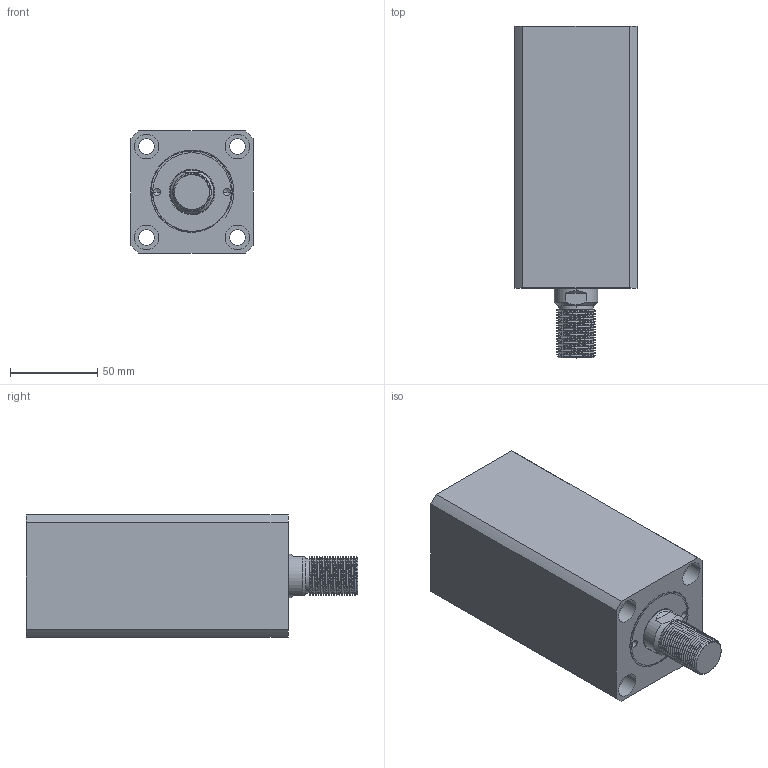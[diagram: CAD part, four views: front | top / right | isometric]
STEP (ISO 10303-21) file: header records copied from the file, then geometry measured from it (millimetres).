
FILE_DESCRIPTION (( 'STEP AP214' ), '1' );
FILE_NAME ('chtb-sd40x95w_asm.STEP', '2018-06-08T05:58:13', ( 'Windows' ), ( 'Microsoft' ), 'SwSTEP 2.0', 'SolidWorks 2015', '' );
FILE_SCHEMA (( 'AUTOMOTIVE_DESIGN' ));
Length unit declared in the file: millimetre
Products named in the file (4): CHTB-SD40QG; CHTB-SD40X95NBT; CHTB-SD40X95WHSG; chtb-sd40x95w_asm
Assembly tree (3 placements, depth 2):
  chtb-sd40x95w_asm
    CHTB-SD40X95WHSG
    CHTB-SD40X95NBT
    CHTB-SD40QG
Bounding box: 70 x 190 x 70 mm (x, y, z)
Volume: 619954.3 mm3; surface area: 118044.9 mm2
Topology: 3 solids, 4 shells, 203 faces, 533 edges, 355 vertices
Faces by surface type: cylinder 118, plane 40, bspline 16, cone 15, torus 14
Entity records: 13425 total; most frequent: CARTESIAN_POINT 8554, ORIENTED_EDGE 1054, DIRECTION 914, EDGE_CURVE 527, AXIS2_PLACEMENT_3D 380, VERTEX_POINT 355, EDGE_LOOP 240, ADVANCED_FACE 203
